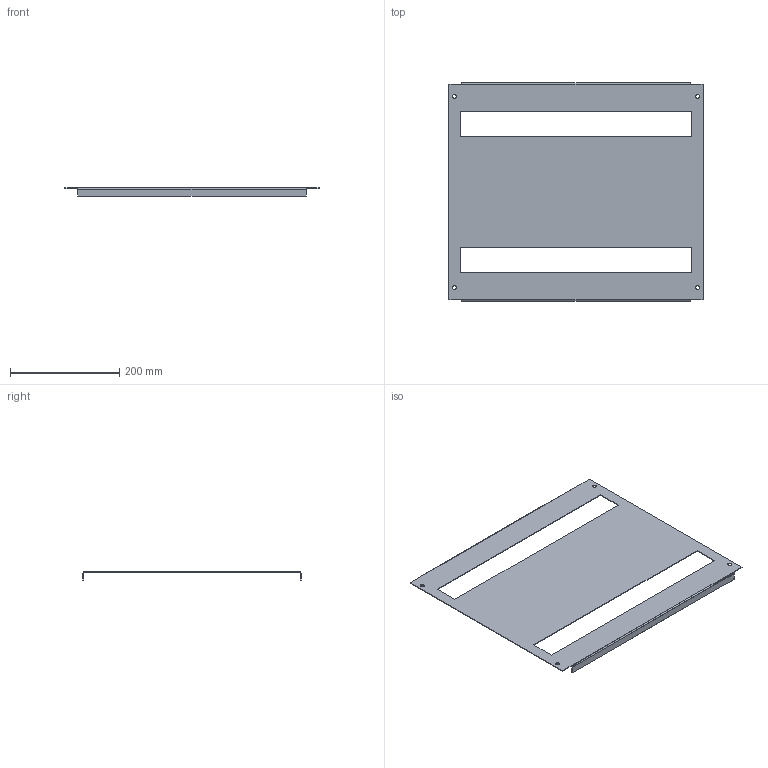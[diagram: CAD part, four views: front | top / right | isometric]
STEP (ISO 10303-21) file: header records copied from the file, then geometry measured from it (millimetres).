
FILE_DESCRIPTION (( 'STEP AP203' ), '1' );
FILE_NAME ('MB 40.50 P Ïàíåëü ìîäóëüíàÿ.STEP', '2012-11-21T07:14:48', ( 'system' ), ( '' ), 'SwSTEP 2.0', 'SolidWorks 2012', '' );
FILE_SCHEMA (( 'CONFIG_CONTROL_DESIGN' ));
Length unit declared in the file: millimetre
Products named in the file (1): MB 40.50 P Ïàíåëü ìîäóëüíàÿ
Bounding box: 465 x 399 x 15 mm (x, y, z)
Volume: 188593.5 mm3; surface area: 318815.4 mm2
Topology: 1 solids, 1 shells, 42 faces, 104 edges, 64 vertices
Faces by surface type: plane 30, cylinder 12
Entity records: 1325 total; most frequent: DIRECTION 214, CARTESIAN_POINT 211, ORIENTED_EDGE 208, EDGE_CURVE 104, VECTOR 80, LINE 80, AXIS2_PLACEMENT_3D 67, VERTEX_POINT 64
